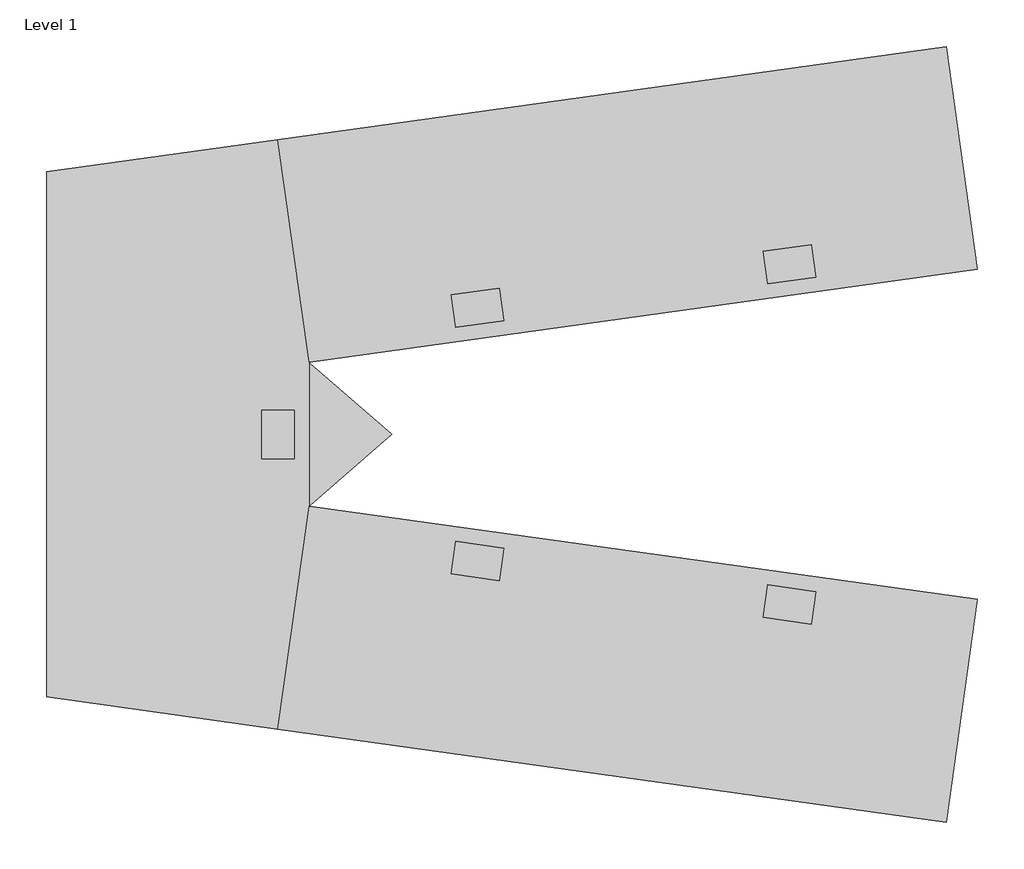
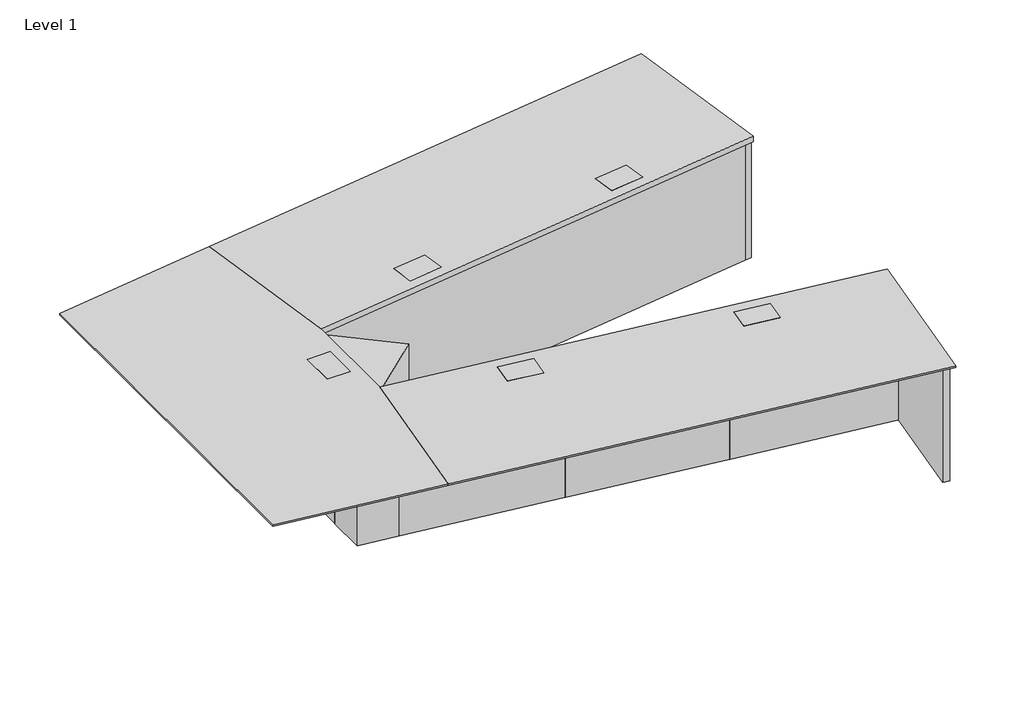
# One storey: 3 proxies.
"""IFC4 building model written with IfcOpenShell, lengths in millimetres."""

from ifc_helpers import new_model, si_unit, origin, place, context, project, spatial, transform, mapped, element, save
from components import generic_models_f61c2e13, generic_models_daf2a984, generic_models_d76be80b

model = new_model("IFC4")

# Units and contexts
model_context = context("Model", 3, world=origin())
ifc_project = project(units=[si_unit("LENGTHUNIT", "METRE", prefix="MILLI")], contexts=[model_context])

# Site, building, storey
site = spatial("IfcSite", under=ifc_project)
building = spatial("IfcBuilding", under=site)
storey = spatial("IfcBuildingStorey", under=building, Name="Level 1", Elevation=0.0)

# Proxies
placement = place(None, origin())
generic_models_shape = generic_models_f61c2e13(model_context)
element("IfcBuildingElementProxy", 1, Name="VIEWLINE^TABLE 3_LEFT TOP SECTION-ASSEMBLY", ObjectType="VIEWLINE^TABLE 3_LEFT TOP SECTION-ASSEMBLY", at=placement, inside=storey, context=model_context, shape_type="MappedRepresentation", body=[
    mapped(generic_models_shape, transform((0.0, -2264.6367753, 711.2), x_axis=(1.0, 0.0, 0.0), y_axis=(0.0, 0.0, 1.0), z_axis=(0.0, -1.0, 0.0))),
])
generic_models_2_shape = generic_models_daf2a984(model_context)
element("IfcBuildingElementProxy", 2, Name="VIEWLINE^TABLE 3_RIGHT TOP SECTION-ASSEMBLY", ObjectType="VIEWLINE^TABLE 3_RIGHT TOP SECTION-ASSEMBLY", at=placement, inside=storey, context=model_context, shape_type="MappedRepresentation", body=[
    mapped(generic_models_2_shape, transform((0.0, -2264.6367753, 711.2), x_axis=(1.0, 0.0, 0.0), y_axis=(0.0, 0.0, 1.0), z_axis=(0.0, -1.0, 0.0))),
])
generic_models_3_shape = generic_models_d76be80b(model_context)
element("IfcBuildingElementProxy", 3, Name="VIEWLINE^TABLE 3_HEAD TOP SECTION-ASSEMBLY", ObjectType="VIEWLINE^TABLE 3_HEAD TOP SECTION-ASSEMBLY", at=placement, inside=storey, context=model_context, shape_type="MappedRepresentation", body=[
    mapped(generic_models_3_shape, transform((0.0, -2264.6367753, 711.2), x_axis=(1.0, 0.0, 0.0), y_axis=(0.0, 0.0, 1.0), z_axis=(0.0, -1.0, 0.0))),
])

save(model, "model.ifc")
